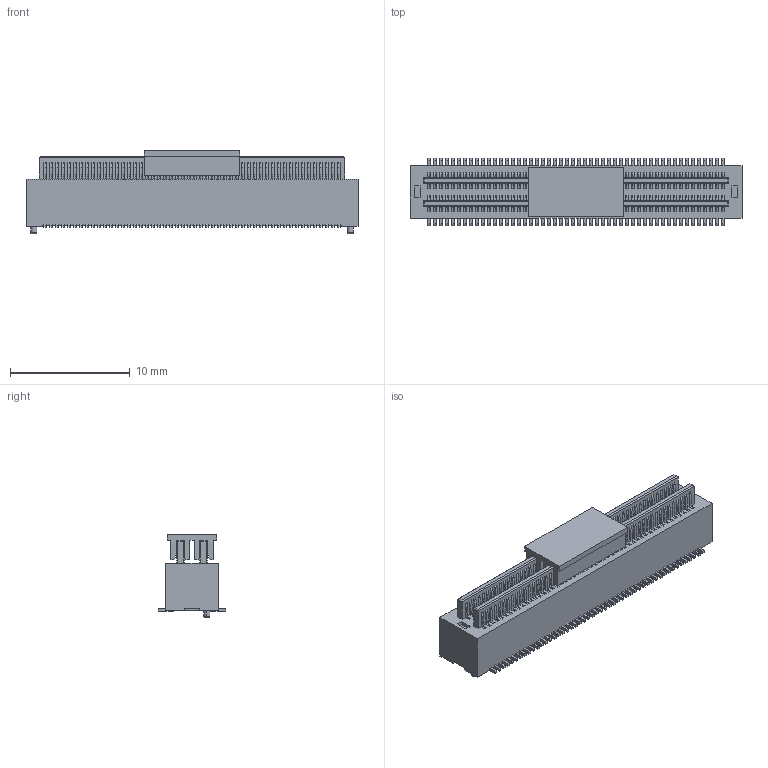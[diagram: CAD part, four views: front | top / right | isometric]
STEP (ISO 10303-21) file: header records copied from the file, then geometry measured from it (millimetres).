
FILE_DESCRIPTION(('CATIA V5 STEP Exchange'),'2;1');
FILE_NAME('F:\黄富鸿\板对板\PBB05\公座\H4.0\编带+盖\HC-PBB05-2-100-M-H4.0-G1-R-P-04（BTB0.5 双槽 公座 立贴 带柱 编带+盖）-HCTL.stp','2025-12-09T08:12:22+00:00',('none'),('none'),'CATIA Version 5 Release 20 GA (IN-10)','CATIA V5 STEP AP203','none');
FILE_SCHEMA(('CONFIG_CONTROL_DESIGN'));
Products named in the file (1): Part2
Bounding box: 27.7 x 5.6 x 6.95 mm (x, y, z)
Volume: 555.5 mm3; surface area: 3750.6 mm2
Topology: 102 solids, 102 shells, 6280 faces, 18998 edges, 12528 vertices
Faces by surface type: plane 4272, cylinder 2004, torus 4
Entity records: 180571 total; most frequent: ORIENTED_EDGE 37996, CARTESIAN_POINT 32772, DIRECTION 20088, EDGE_CURVE 18998, VECTOR 14782, LINE 14782, VERTEX_POINT 12528, EDGE_LOOP 6286
